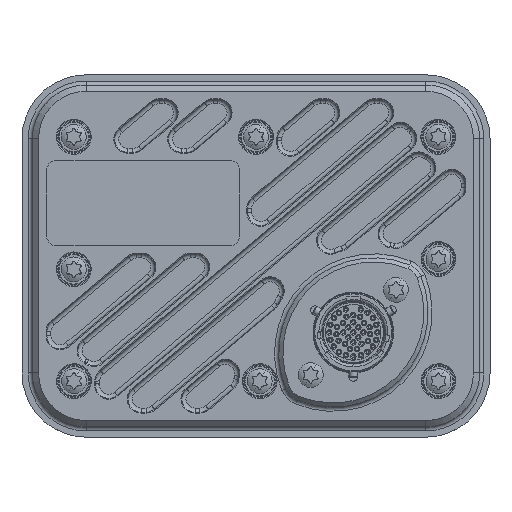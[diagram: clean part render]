
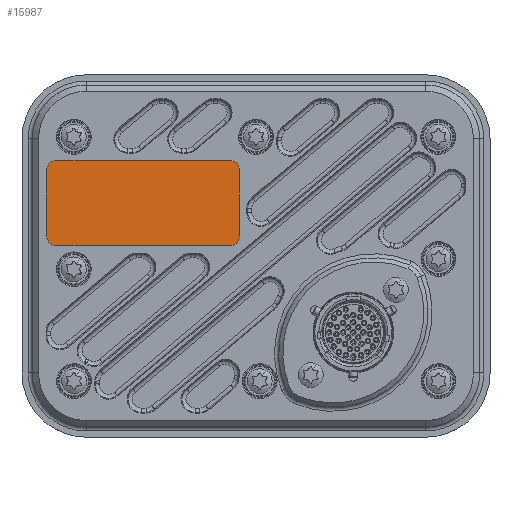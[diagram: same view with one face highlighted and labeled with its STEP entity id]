
A CAD part, top view. The second image highlights one B-rep face of the part: STEP entity #15987.
In plain terms, the highlighted planar face has unit normal (0, 0, 1).
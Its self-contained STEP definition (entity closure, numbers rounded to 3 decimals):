
#13179=AXIS2_PLACEMENT_3D('Circle Axis2P3D',#13177,#13178,$) ;
#13227=AXIS2_PLACEMENT_3D('Circle Axis2P3D',#13225,#13226,$) ;
#13275=AXIS2_PLACEMENT_3D('Circle Axis2P3D',#13273,#13274,$) ;
#13323=AXIS2_PLACEMENT_3D('Circle Axis2P3D',#13321,#13322,$) ;
#15975=AXIS2_PLACEMENT_3D('Plane Axis2P3D',#15972,#15973,#15974) ;
#13167=CARTESIAN_POINT('Vertex',(49.412,66.5,12.6)) ;
#13174=CARTESIAN_POINT('Vertex',(47.212,68.7,12.6)) ;
#13177=CARTESIAN_POINT('Axis2P3D Location',(47.212,66.5,12.6)) ;
#13198=CARTESIAN_POINT('Vertex',(49.412,50.4,12.6)) ;
#13201=CARTESIAN_POINT('Line Origine',(49.412,58.45,12.6)) ;
#13222=CARTESIAN_POINT('Vertex',(47.212,48.2,12.6)) ;
#13225=CARTESIAN_POINT('Axis2P3D Location',(47.212,50.4,12.6)) ;
#13246=CARTESIAN_POINT('Vertex',(5.112,48.2,12.6)) ;
#13249=CARTESIAN_POINT('Line Origine',(26.162,48.2,12.6)) ;
#13270=CARTESIAN_POINT('Vertex',(2.912,50.4,12.6)) ;
#13273=CARTESIAN_POINT('Axis2P3D Location',(5.112,50.4,12.6)) ;
#13294=CARTESIAN_POINT('Vertex',(2.912,66.5,12.6)) ;
#13297=CARTESIAN_POINT('Line Origine',(2.912,58.45,12.6)) ;
#13318=CARTESIAN_POINT('Vertex',(5.112,68.7,12.6)) ;
#13321=CARTESIAN_POINT('Axis2P3D Location',(5.112,66.5,12.6)) ;
#13338=CARTESIAN_POINT('Line Origine',(26.162,68.7,12.6)) ;
#15972=CARTESIAN_POINT('Axis2P3D Location',(0.,0.,12.6)) ;
#13178=DIRECTION('Axis2P3D Direction',(0.,0.,1.)) ;
#13202=DIRECTION('Vector Direction',(0.,1.,0.)) ;
#13226=DIRECTION('Axis2P3D Direction',(0.,0.,1.)) ;
#13250=DIRECTION('Vector Direction',(-1.,0.,0.)) ;
#13274=DIRECTION('Axis2P3D Direction',(0.,0.,1.)) ;
#13298=DIRECTION('Vector Direction',(0.,-1.,0.)) ;
#13322=DIRECTION('Axis2P3D Direction',(0.,0.,1.)) ;
#13339=DIRECTION('Vector Direction',(1.,0.,0.)) ;
#15973=DIRECTION('Axis2P3D Direction',(0.,0.,1.)) ;
#15974=DIRECTION('Axis2P3D XDirection',(1.,0.,0.)) ;
#13203=VECTOR('Line Direction',#13202,1.) ;
#13251=VECTOR('Line Direction',#13250,1.) ;
#13299=VECTOR('Line Direction',#13298,1.) ;
#13340=VECTOR('Line Direction',#13339,1.) ;
#15978=ORIENTED_EDGE('',*,*,#13325,.T.) ;
#15979=ORIENTED_EDGE('',*,*,#13301,.T.) ;
#15980=ORIENTED_EDGE('',*,*,#13277,.T.) ;
#15981=ORIENTED_EDGE('',*,*,#13253,.T.) ;
#15982=ORIENTED_EDGE('',*,*,#13229,.T.) ;
#15983=ORIENTED_EDGE('',*,*,#13205,.T.) ;
#15984=ORIENTED_EDGE('',*,*,#13181,.T.) ;
#15985=ORIENTED_EDGE('',*,*,#13342,.T.) ;
#15987=ADVANCED_FACE('LFR-624-01_MCHL_UPPER.1\\MCHL-T Installation',(#15986),#15976,.T.) ;
#13180=CIRCLE('generated circle',#13179,2.2) ;
#13228=CIRCLE('generated circle',#13227,2.2) ;
#13276=CIRCLE('generated circle',#13275,2.2) ;
#13324=CIRCLE('generated circle',#13323,2.2) ;
#13181=EDGE_CURVE('',#13168,#13175,#13180,.T.) ;
#13205=EDGE_CURVE('',#13199,#13168,#13204,.T.) ;
#13229=EDGE_CURVE('',#13223,#13199,#13228,.T.) ;
#13253=EDGE_CURVE('',#13247,#13223,#13252,.F.) ;
#13277=EDGE_CURVE('',#13271,#13247,#13276,.T.) ;
#13301=EDGE_CURVE('',#13295,#13271,#13300,.T.) ;
#13325=EDGE_CURVE('',#13319,#13295,#13324,.T.) ;
#13342=EDGE_CURVE('',#13175,#13319,#13341,.F.) ;
#15977=EDGE_LOOP('',(#15978,#15979,#15980,#15981,#15982,#15983,#15984,#15985)) ;
#15986=FACE_OUTER_BOUND('',#15977,.T.) ;
#13204=LINE('Line',#13201,#13203) ;
#13252=LINE('Line',#13249,#13251) ;
#13300=LINE('Line',#13297,#13299) ;
#13341=LINE('Line',#13338,#13340) ;
#15976=PLANE('Plane',#15975) ;
#13168=VERTEX_POINT('',#13167) ;
#13175=VERTEX_POINT('',#13174) ;
#13199=VERTEX_POINT('',#13198) ;
#13223=VERTEX_POINT('',#13222) ;
#13247=VERTEX_POINT('',#13246) ;
#13271=VERTEX_POINT('',#13270) ;
#13295=VERTEX_POINT('',#13294) ;
#13319=VERTEX_POINT('',#13318) ;
